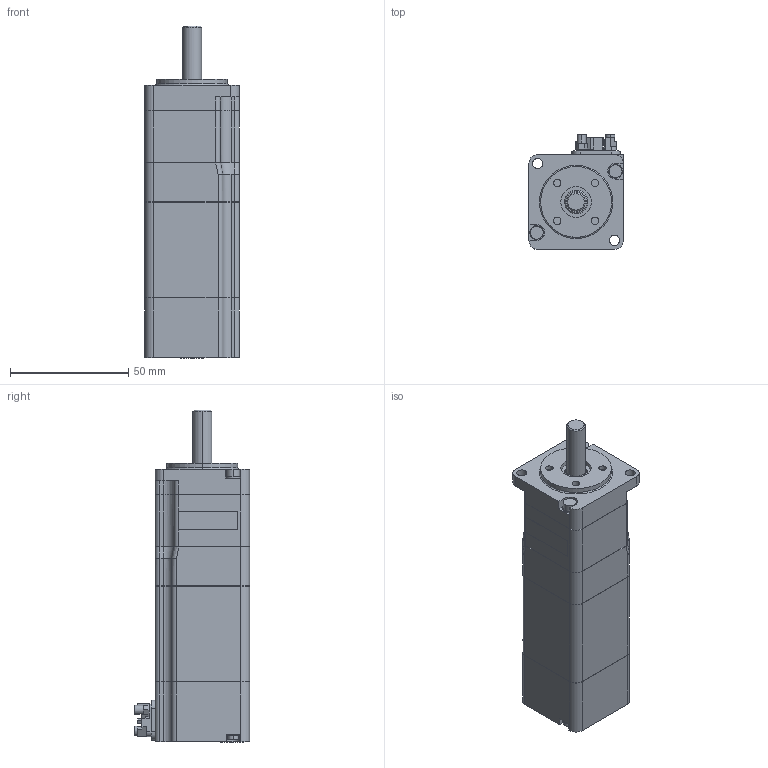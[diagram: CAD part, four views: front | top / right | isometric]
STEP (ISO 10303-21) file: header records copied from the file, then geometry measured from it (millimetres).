
FILE_DESCRIPTION (( 'STEP AP214' ), '1' );
FILE_NAME ('sgmxj_01awa2ca_.STEP', '2021-07-12T08:15:57', ( '' ), ( '' ), 'SwSTEP 2.0', 'SolidWorks 2016', '' );
FILE_SCHEMA (( 'AUTOMOTIVE_DESIGN' ));
Length unit declared in the file: millimetre
Products named in the file (1): sgmxj_01awa2ca_
Bounding box: 40.1 x 48.8 x 140.6 mm (x, y, z)
Volume: 175773.1 mm3; surface area: 24346.2 mm2
Topology: 1 solids, 1 shells, 363 faces, 963 edges, 639 vertices
Faces by surface type: plane 212, cylinder 134, bspline 11, cone 4, torus 2
Entity records: 15512 total; most frequent: CARTESIAN_POINT 2340, ORIENTED_EDGE 1926, DIRECTION 1901, EDGE_CURVE 963, LINE 651, VECTOR 651, VERTEX_POINT 639, AXIS2_PLACEMENT_3D 625
